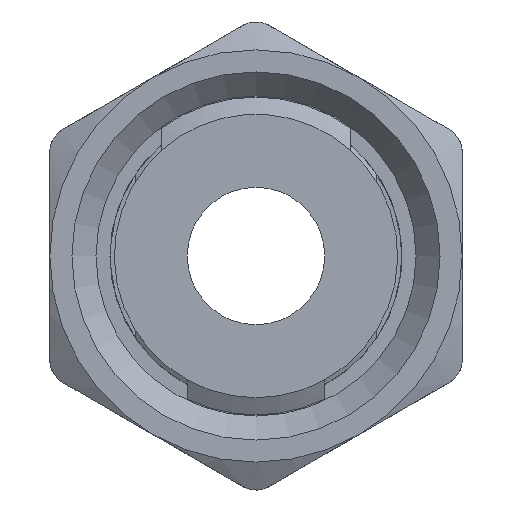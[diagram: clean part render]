
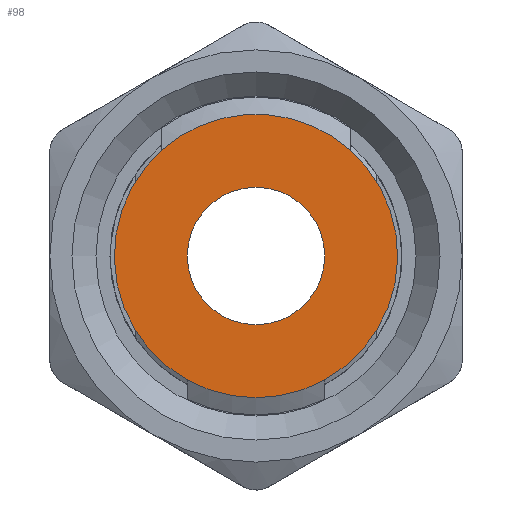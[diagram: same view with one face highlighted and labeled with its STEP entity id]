
A CAD part, front view. The second image highlights one B-rep face of the part: STEP entity #98.
In plain terms, the highlighted planar face has unit normal (0, -1, 0).
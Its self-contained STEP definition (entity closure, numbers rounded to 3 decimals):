
#98=ADVANCED_FACE('',(#677,#679),#681,.F.);
#677=FACE_BOUND('',#678,.T.);
#678=EDGE_LOOP('',(#2839,#2840,#2841,#2842));
#679=FACE_BOUND('',#680,.T.);
#680=EDGE_LOOP('',(#2843));
#681=PLANE('',#682);
#682=AXIS2_PLACEMENT_3D('',#683,#684,#685);
#683=CARTESIAN_POINT('',(0.,0.,0.));
#684=DIRECTION('',(0.,1.,0.));
#685=DIRECTION('',(-1.,0.,0.));
#2839=ORIENTED_EDGE('',*,*,#4746,.T.);
#2840=ORIENTED_EDGE('',*,*,#4744,.T.);
#2841=ORIENTED_EDGE('',*,*,#4743,.T.);
#2842=ORIENTED_EDGE('',*,*,#4742,.T.);
#2843=ORIENTED_EDGE('',*,*,#4761,.T.);
#4742=EDGE_CURVE('',#5532,#5574,#5613,.F.);
#4743=EDGE_CURVE('',#5544,#5532,#5614,.F.);
#4744=EDGE_CURVE('',#5563,#5544,#5615,.F.);
#4746=EDGE_CURVE('',#5574,#5563,#5618,.F.);
#4761=EDGE_CURVE('',#5643,#5643,#5644,.T.);
#5532=VERTEX_POINT('',#6953);
#5544=VERTEX_POINT('',#6990);
#5563=VERTEX_POINT('',#7045);
#5574=VERTEX_POINT('',#7081);
#5613=CIRCLE('',#7194,8.25);
#5614=CIRCLE('',#7198,8.25);
#5615=CIRCLE('',#7202,8.25);
#5618=CIRCLE('',#7211,8.25);
#5643=VERTEX_POINT('',#7275);
#5644=CIRCLE('',#7276,4.);
#6953=CARTESIAN_POINT('',(-5.5,0.,6.149));
#6990=CARTESIAN_POINT('',(5.5,0.,6.149));
#7045=CARTESIAN_POINT('',(4.,0.,-7.215));
#7081=CARTESIAN_POINT('',(-4.,0.,-7.215));
#7194=AXIS2_PLACEMENT_3D('',#7195,#7196,#7197);
#7195=CARTESIAN_POINT('',(0.,0.,0.));
#7196=DIRECTION('',(0.,1.,0.));
#7197=DIRECTION('',(-0.485,0.,-0.875));
#7198=AXIS2_PLACEMENT_3D('',#7199,#7200,#7201);
#7199=CARTESIAN_POINT('',(0.,0.,0.));
#7200=DIRECTION('',(0.,1.,0.));
#7201=DIRECTION('',(-0.667,0.,0.745));
#7202=AXIS2_PLACEMENT_3D('',#7203,#7204,#7205);
#7203=CARTESIAN_POINT('',(0.,0.,0.));
#7204=DIRECTION('',(0.,1.,0.));
#7205=DIRECTION('',(0.667,0.,0.745));
#7211=AXIS2_PLACEMENT_3D('',#7212,#7213,#7214);
#7212=CARTESIAN_POINT('',(0.,0.,0.));
#7213=DIRECTION('',(0.,1.,0.));
#7214=DIRECTION('',(0.485,0.,-0.875));
#7275=CARTESIAN_POINT('',(-4.,0.,0.));
#7276=AXIS2_PLACEMENT_3D('',#7277,#7278,#7279);
#7277=CARTESIAN_POINT('',(0.,0.,0.));
#7278=DIRECTION('',(0.,1.,0.));
#7279=DIRECTION('',(-1.,0.,0.));
